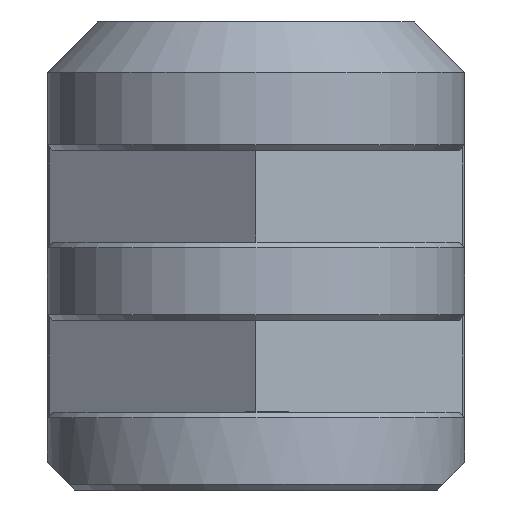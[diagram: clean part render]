
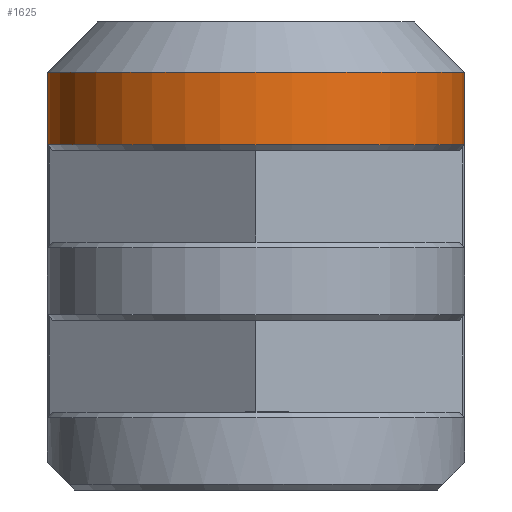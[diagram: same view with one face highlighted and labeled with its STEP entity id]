
A CAD part, left-side view. The second image highlights one B-rep face of the part: STEP entity #1625.
In plain terms, the highlighted cylindrical face has radius 7.5 mm (diameter 15 mm), a partial arc.
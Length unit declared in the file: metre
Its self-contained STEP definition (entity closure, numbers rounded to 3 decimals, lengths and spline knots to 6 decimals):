
#32=ELLIPSE('',#1742,0.010607,0.0075);
#33=ELLIPSE('',#1744,0.010607,0.0075);
#46=CIRCLE('',#1741,0.0075);
#47=CIRCLE('',#1743,0.0075);
#70=CYLINDRICAL_SURFACE('',#1740,0.0075);
#147=ORIENTED_EDGE('',*,*,#587,.T.);
#148=ORIENTED_EDGE('',*,*,#611,.T.);
#149=ORIENTED_EDGE('',*,*,#563,.F.);
#150=ORIENTED_EDGE('',*,*,#612,.T.);
#151=ORIENTED_EDGE('',*,*,#613,.T.);
#152=ORIENTED_EDGE('',*,*,#614,.T.);
#563=EDGE_CURVE('',#797,#798,#948,.T.);
#587=EDGE_CURVE('',#822,#821,#972,.T.);
#611=EDGE_CURVE('',#821,#798,#46,.F.);
#612=EDGE_CURVE('',#797,#841,#32,.F.);
#613=EDGE_CURVE('',#841,#842,#47,.F.);
#614=EDGE_CURVE('',#842,#822,#33,.T.);
#797=VERTEX_POINT('',#2341);
#798=VERTEX_POINT('',#2343);
#821=VERTEX_POINT('',#2390);
#822=VERTEX_POINT('',#2392);
#841=VERTEX_POINT('',#2442);
#842=VERTEX_POINT('',#2444);
#948=LINE('',#2342,#1145);
#972=LINE('',#2391,#1169);
#1145=VECTOR('',#1872,1.);
#1169=VECTOR('',#1898,1.);
#1336=EDGE_LOOP('',(#147,#148,#149,#150,#151,#152));
#1447=FACE_BOUND('',#1336,.T.);
#1625=ADVANCED_FACE('',(#1447),#70,.T.);
#1740=AXIS2_PLACEMENT_3D('',#2439,#1942,#1943);
#1741=AXIS2_PLACEMENT_3D('',#2440,#1944,#1945);
#1742=AXIS2_PLACEMENT_3D('',#2441,#1946,#1947);
#1743=AXIS2_PLACEMENT_3D('',#2443,#1948,#1949);
#1744=AXIS2_PLACEMENT_3D('',#2445,#1950,#1951);
#1872=DIRECTION('',(0.,0.,-1.));
#1898=DIRECTION('',(0.,0.,-1.));
#1942=DIRECTION('',(0.,0.,-1.));
#1943=DIRECTION('',(-1.,0.,0.));
#1944=DIRECTION('',(0.,0.,-1.));
#1945=DIRECTION('',(-1.,0.,0.));
#1946=DIRECTION('',(0.,0.707,-0.707));
#1947=DIRECTION('',(0.,-0.707,-0.707));
#1948=DIRECTION('',(0.,0.,1.));
#1949=DIRECTION('',(1.,0.,0.));
#1950=DIRECTION('',(0.,0.707,0.707));
#1951=DIRECTION('',(0.,0.707,-0.707));
#2341=CARTESIAN_POINT('',(-0.09,-0.0075,0.014));
#2342=CARTESIAN_POINT('',(-0.09,-0.0075,0.015));
#2343=CARTESIAN_POINT('',(-0.09,-0.0075,0.0124));
#2390=CARTESIAN_POINT('',(-0.09,0.0075,0.0124));
#2391=CARTESIAN_POINT('',(-0.09,0.0075,0.015));
#2392=CARTESIAN_POINT('',(-0.09,0.0075,0.014));
#2439=CARTESIAN_POINT('',(-0.09,0.,0.015));
#2440=CARTESIAN_POINT('',(-0.09,0.,0.0124));
#2441=CARTESIAN_POINT('',(-0.09,0.,0.0215));
#2442=CARTESIAN_POINT('',(-0.086258,-0.0065,0.015));
#2443=CARTESIAN_POINT('',(-0.09,0.,0.015));
#2444=CARTESIAN_POINT('',(-0.086258,0.0065,0.015));
#2445=CARTESIAN_POINT('',(-0.09,0.,0.0215));
